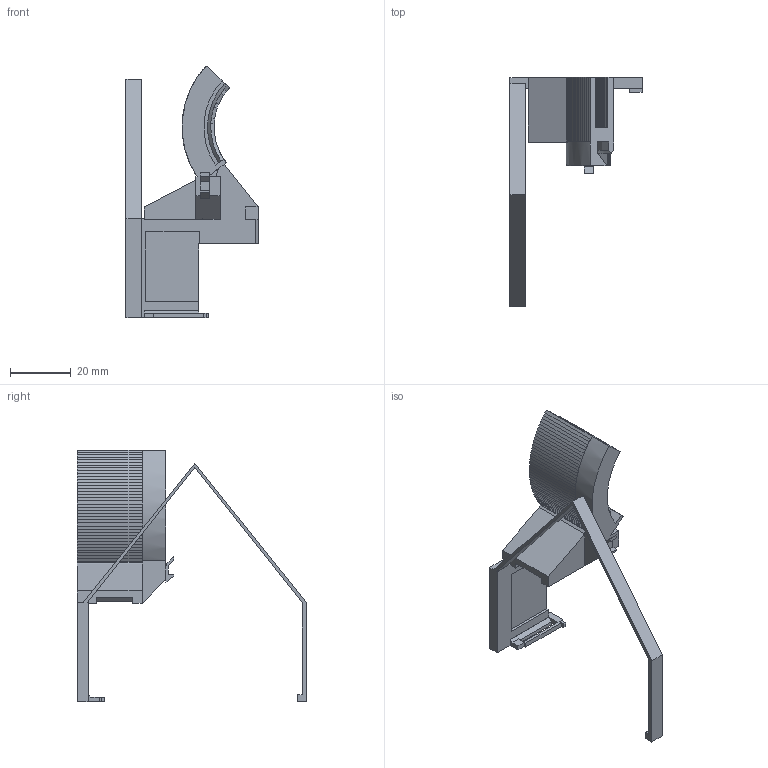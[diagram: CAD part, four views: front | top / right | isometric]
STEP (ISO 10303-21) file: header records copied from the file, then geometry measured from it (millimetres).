
FILE_DESCRIPTION(('Open CASCADE Model'),'2;1');
FILE_NAME('Open CASCADE Shape Model','2026-10-14T01:09:43',('Author'),( 'Open CASCADE'),'Open CASCADE STEP processor 8.0','build123d', 'Unknown');
FILE_SCHEMA(('AUTOMOTIVE_DESIGN { 1 0 10303 214 1 1 1 1 }'));
Length unit declared in the file: millimetre
Products named in the file (1): SOLID
Bounding box: 43.5 x 75.45 x 83.02 mm (x, y, z)
Volume: 15736.6 mm3; surface area: 11365.8 mm2
Topology: 1 solids, 1 shells, 386 faces, 1000 edges, 616 vertices
Faces by surface type: plane 371, cylinder 9, cone 6
Entity records: 24374 total; most frequent: CARTESIAN_POINT 4550, DIRECTION 3598, LINE 2570, VECTOR 2570, ORIENTED_EDGE 2000, PCURVE 2000, DEFINITIONAL_REPRESENTATION 2000, EDGE_CURVE 1000
